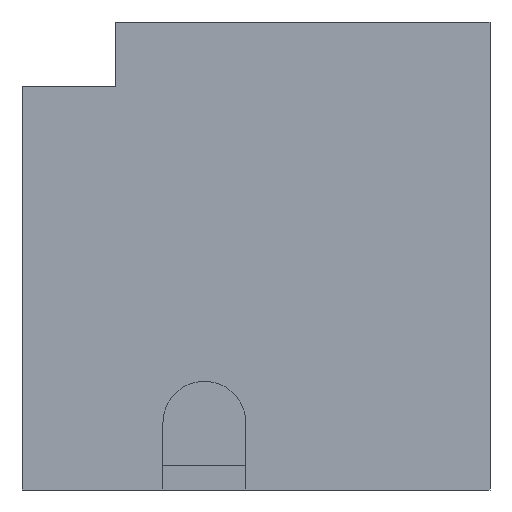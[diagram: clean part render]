
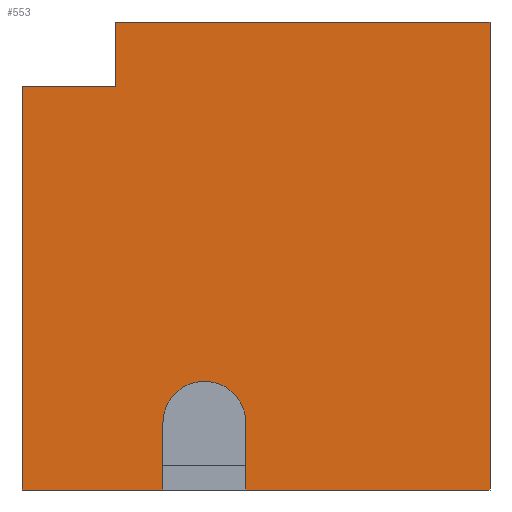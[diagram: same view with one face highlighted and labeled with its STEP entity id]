
A CAD part, left-side view. The second image highlights one B-rep face of the part: STEP entity #553.
In plain terms, the highlighted planar face has unit normal (-1, 0, 0).
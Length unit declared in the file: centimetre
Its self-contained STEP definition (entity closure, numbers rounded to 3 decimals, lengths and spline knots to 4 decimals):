
#10 = EDGE_CURVE ( 'NONE', #214, #762, #1206, .T. ) ;
#12 = CARTESIAN_POINT ( 'NONE',  ( 0., 800.8176, 862.8849 ) ) ;
#32 = EDGE_CURVE ( 'NONE', #373, #1183, #1215, .T. ) ;
#68 = LINE ( 'NONE', #1202, #1111 ) ;
#71 = VERTEX_POINT ( 'NONE', #455 ) ;
#89 = CARTESIAN_POINT ( 'NONE',  ( 0., 0., 1000. ) ) ;
#94 = EDGE_CURVE ( 'NONE', #141, #917, #365, .T. ) ;
#102 = CARTESIAN_POINT ( 'NONE',  ( 0., 698.833, 143.3742 ) ) ;
#111 = CARTESIAN_POINT ( 'NONE',  ( 0., 610.1906, 143.3742 ) ) ;
#129 = VECTOR ( 'NONE', #623, 100. ) ;
#137 = DIRECTION ( 'NONE',  ( 0., 0., 1. ) ) ;
#141 = VERTEX_POINT ( 'NONE', #176 ) ;
#146 = EDGE_CURVE ( 'NONE', #820, #214, #298, .T. ) ;
#148 = DIRECTION ( 'NONE',  ( 0., 0., -1. ) ) ;
#156 = CIRCLE ( 'NONE', #984, 88.6424 ) ;
#158 = VECTOR ( 'NONE', #1212, 100. ) ;
#176 = CARTESIAN_POINT ( 'NONE',  ( 0., 1000., 862.8849 ) ) ;
#198 = CARTESIAN_POINT ( 'NONE',  ( 0., 1000., 1000. ) ) ;
#214 = VERTEX_POINT ( 'NONE', #556 ) ;
#298 = LINE ( 'NONE', #198, #129 ) ;
#346 = ORIENTED_EDGE ( 'NONE', *, *, #925, .F. ) ;
#358 = CARTESIAN_POINT ( 'NONE',  ( 0., 698.833, 0. ) ) ;
#359 = CIRCLE ( 'NONE', #1231, 88.6424 ) ;
#360 = EDGE_CURVE ( 'NONE', #141, #659, #402, .T. ) ;
#365 = LINE ( 'NONE', #934, #886 ) ;
#373 = VERTEX_POINT ( 'NONE', #787 ) ;
#384 = DIRECTION ( 'NONE',  ( -1., 0., 0. ) ) ;
#389 = CARTESIAN_POINT ( 'NONE',  ( 0., 521.5481, 143.3742 ) ) ;
#402 = LINE ( 'NONE', #1078, #1304 ) ;
#416 = EDGE_CURVE ( 'NONE', #1183, #71, #359, .T. ) ;
#421 = VECTOR ( 'NONE', #1401, 100. ) ;
#437 = DIRECTION ( 'NONE',  ( 0., 0., -1. ) ) ;
#455 = CARTESIAN_POINT ( 'NONE',  ( 0., 610.1906, 232.0166 ) ) ;
#553 = ADVANCED_FACE ( 'NONE', ( #1174 ), #1045, .F. ) ;
#556 = CARTESIAN_POINT ( 'NONE',  ( 0., 0., 1000. ) ) ;
#567 = DIRECTION ( 'NONE',  ( 1., 0., 0. ) ) ;
#582 = LINE ( 'NONE', #1160, #421 ) ;
#595 = CARTESIAN_POINT ( 'NONE',  ( 0., 521.5481, 0. ) ) ;
#623 = DIRECTION ( 'NONE',  ( 0., -1., 0. ) ) ;
#628 = VERTEX_POINT ( 'NONE', #837 ) ;
#650 = ORIENTED_EDGE ( 'NONE', *, *, #1204, .F. ) ;
#657 = ORIENTED_EDGE ( 'NONE', *, *, #146, .F. ) ;
#659 = VERTEX_POINT ( 'NONE', #1424 ) ;
#686 = VERTEX_POINT ( 'NONE', #358 ) ;
#723 = ORIENTED_EDGE ( 'NONE', *, *, #1159, .T. ) ;
#731 = DIRECTION ( 'NONE',  ( 0., 0., -1. ) ) ;
#762 = VERTEX_POINT ( 'NONE', #1296 ) ;
#787 = CARTESIAN_POINT ( 'NONE',  ( 0., 521.5481, 0. ) ) ;
#811 = ORIENTED_EDGE ( 'NONE', *, *, #32, .F. ) ;
#820 = VERTEX_POINT ( 'NONE', #1396 ) ;
#837 = CARTESIAN_POINT ( 'NONE',  ( 0., 698.833, 143.3742 ) ) ;
#841 = VECTOR ( 'NONE', #731, 100. ) ;
#878 = DIRECTION ( 'NONE',  ( 0., -1., 0. ) ) ;
#886 = VECTOR ( 'NONE', #1279, 100. ) ;
#917 = VERTEX_POINT ( 'NONE', #12 ) ;
#925 = EDGE_CURVE ( 'NONE', #628, #686, #1469, .T. ) ;
#929 = EDGE_LOOP ( 'NONE', ( #650, #1326, #1385, #723, #346, #1148, #1048, #811, #1479, #1325, #657 ) ) ;
#934 = CARTESIAN_POINT ( 'NONE',  ( 0., 800.8176, 862.8849 ) ) ;
#939 = VECTOR ( 'NONE', #1411, 100. ) ;
#943 = AXIS2_PLACEMENT_3D ( 'NONE', #1389, #567, #148 ) ;
#984 = AXIS2_PLACEMENT_3D ( 'NONE', #1393, #384, #137 ) ;
#989 = EDGE_CURVE ( 'NONE', #373, #762, #582, .T. ) ;
#1014 = DIRECTION ( 'NONE',  ( 0., 0., 1. ) ) ;
#1028 = DIRECTION ( 'NONE',  ( -1., 0., 0. ) ) ;
#1045 = PLANE ( 'NONE',  #943 ) ;
#1048 = ORIENTED_EDGE ( 'NONE', *, *, #416, .F. ) ;
#1078 = CARTESIAN_POINT ( 'NONE',  ( 0., 1000., 1000. ) ) ;
#1092 = CARTESIAN_POINT ( 'NONE',  ( 0., 800.8176, 862.8849 ) ) ;
#1095 = EDGE_CURVE ( 'NONE', #71, #628, #156, .T. ) ;
#1111 = VECTOR ( 'NONE', #878, 100. ) ;
#1148 = ORIENTED_EDGE ( 'NONE', *, *, #1095, .F. ) ;
#1159 = EDGE_CURVE ( 'NONE', #659, #686, #68, .T. ) ;
#1160 = CARTESIAN_POINT ( 'NONE',  ( 0., 1000., 0. ) ) ;
#1174 = FACE_OUTER_BOUND ( 'NONE', #929, .T. ) ;
#1183 = VERTEX_POINT ( 'NONE', #389 ) ;
#1202 = CARTESIAN_POINT ( 'NONE',  ( 0., 1000., 0. ) ) ;
#1204 = EDGE_CURVE ( 'NONE', #917, #820, #1328, .T. ) ;
#1206 = LINE ( 'NONE', #89, #841 ) ;
#1212 = DIRECTION ( 'NONE',  ( 0., 0., 1. ) ) ;
#1215 = LINE ( 'NONE', #595, #939 ) ;
#1231 = AXIS2_PLACEMENT_3D ( 'NONE', #111, #1028, #1014 ) ;
#1255 = VECTOR ( 'NONE', #437, 100. ) ;
#1279 = DIRECTION ( 'NONE',  ( 0., -1., 0. ) ) ;
#1296 = CARTESIAN_POINT ( 'NONE',  ( 0., 0., 0. ) ) ;
#1304 = VECTOR ( 'NONE', #1459, 100. ) ;
#1325 = ORIENTED_EDGE ( 'NONE', *, *, #10, .F. ) ;
#1326 = ORIENTED_EDGE ( 'NONE', *, *, #94, .F. ) ;
#1328 = LINE ( 'NONE', #1092, #158 ) ;
#1385 = ORIENTED_EDGE ( 'NONE', *, *, #360, .T. ) ;
#1389 = CARTESIAN_POINT ( 'NONE',  ( 0., 1000., 1000. ) ) ;
#1393 = CARTESIAN_POINT ( 'NONE',  ( 0., 610.1906, 143.3742 ) ) ;
#1396 = CARTESIAN_POINT ( 'NONE',  ( 0., 800.8176, 1000. ) ) ;
#1401 = DIRECTION ( 'NONE',  ( 0., -1., 0. ) ) ;
#1411 = DIRECTION ( 'NONE',  ( 0., 0., 1. ) ) ;
#1424 = CARTESIAN_POINT ( 'NONE',  ( 0., 1000., 0. ) ) ;
#1459 = DIRECTION ( 'NONE',  ( 0., 0., -1. ) ) ;
#1469 = LINE ( 'NONE', #102, #1255 ) ;
#1479 = ORIENTED_EDGE ( 'NONE', *, *, #989, .T. ) ;
